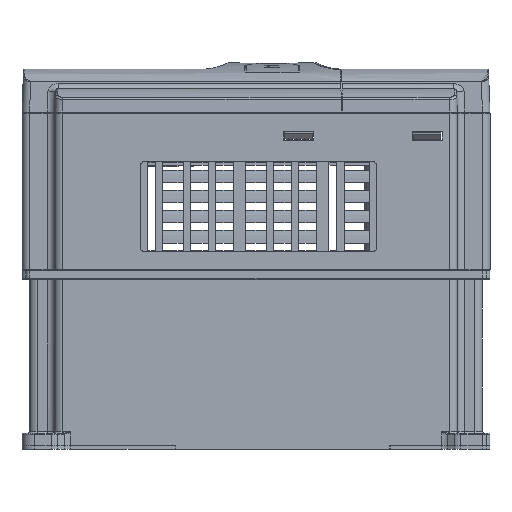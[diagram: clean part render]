
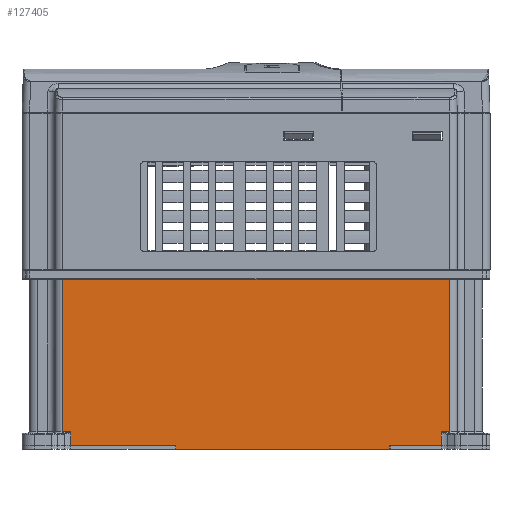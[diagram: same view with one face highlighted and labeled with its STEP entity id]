
A CAD part, left-side view. The second image highlights one B-rep face of the part: STEP entity #127405.
In plain terms, the highlighted planar face has unit normal (-1, 0, 0) as drawn and (1, 0, 0) by its records, which use the part's own axes.
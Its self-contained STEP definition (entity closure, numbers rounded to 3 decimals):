
#103944=DIRECTION('',(0.,0.,-1.));
#103945=VECTOR('',#103944,20.434);
#103946=CARTESIAN_POINT('',(60.,50.,75.434));
#103947=LINE('',#103946,#103945);
#104566=DIRECTION('',(0.,0.,-1.));
#104567=VECTOR('',#104566,41.794);
#104568=CARTESIAN_POINT('',(60.,50.,-30.));
#104569=LINE('',#104568,#104567);
#109543=DIRECTION('',(0.,-1.,0.));
#109544=VECTOR('',#109543,5.5);
#109545=CARTESIAN_POINT('',(60.,50.,75.434));
#109546=LINE('',#109545,#109544);
#109561=DIRECTION('',(0.,1.,0.));
#109562=VECTOR('',#109561,1.5);
#109563=CARTESIAN_POINT('',(60.,50.,55.));
#109564=LINE('',#109563,#109562);
#109565=DIRECTION('',(0.,0.,1.));
#109566=VECTOR('',#109565,3.387);
#109567=CARTESIAN_POINT('',(60.,44.5,-75.181));
#109568=LINE('',#109567,#109566);
#109569=DIRECTION('',(0.,-1.,0.));
#109570=VECTOR('',#109569,60.5);
#109571=CARTESIAN_POINT('',(60.,44.5,-75.181));
#109572=LINE('',#109571,#109570);
#109573=DIRECTION('',(0.,0.,-1.));
#109574=VECTOR('',#109573,154.);
#109575=CARTESIAN_POINT('',(60.,-16.,78.819));
#109576=LINE('',#109575,#109574);
#109577=DIRECTION('',(0.,0.,1.));
#109578=VECTOR('',#109577,3.385);
#109579=CARTESIAN_POINT('',(60.,44.5,75.434));
#109580=LINE('',#109579,#109578);
#109613=DIRECTION('',(0.,1.,0.));
#109614=VECTOR('',#109613,1.5);
#109615=CARTESIAN_POINT('',(60.,50.,-30.));
#109616=LINE('',#109615,#109614);
#109625=DIRECTION('',(0.,0.,-1.));
#109626=VECTOR('',#109625,85.);
#109627=CARTESIAN_POINT('',(60.,51.5,55.));
#109628=LINE('',#109627,#109626);
#110642=DIRECTION('',(0.,-1.,0.));
#110643=VECTOR('',#110642,60.5);
#110644=CARTESIAN_POINT('',(60.,44.5,78.819));
#110645=LINE('',#110644,#110643);
#115620=DIRECTION('',(0.,1.,
0.));
#115621=VECTOR('',#115620,5.5);
#115622=CARTESIAN_POINT('',(60.,44.5,
-71.794));
#115623=LINE('',#115622,#115621);
#117981=CARTESIAN_POINT('',(60.,50.,75.434));
#117983=VERTEX_POINT('',#117981);
#118040=CARTESIAN_POINT('',(60.,-16.,78.819));
#118041=CARTESIAN_POINT('',(60.,-16.,-75.181));
#118042=VERTEX_POINT('',#118040);
#118043=VERTEX_POINT('',#118041);
#118142=CARTESIAN_POINT('',(60.,50.,-71.794));
#118143=VERTEX_POINT('',#118142);
#118351=CARTESIAN_POINT('',(60.,44.5,78.819));
#118352=VERTEX_POINT('',#118351);
#118353=CARTESIAN_POINT('',(60.,44.5,75.434));
#118354=VERTEX_POINT('',#118353);
#118441=CARTESIAN_POINT('',(60.,44.5,-75.181));
#118442=VERTEX_POINT('',#118441);
#118725=CARTESIAN_POINT('',(60.,44.5,
-71.794));
#118726=VERTEX_POINT('',#118725);
#118826=CARTESIAN_POINT('',(60.,51.5,55.));
#118827=CARTESIAN_POINT('',(60.,51.5,-30.));
#118828=VERTEX_POINT('',#118826);
#118829=VERTEX_POINT('',#118827);
#118838=CARTESIAN_POINT('',(60.,50.,55.));
#118839=VERTEX_POINT('',#118838);
#118840=CARTESIAN_POINT('',(60.,50.,-30.));
#118841=VERTEX_POINT('',#118840);
#127378=CARTESIAN_POINT('',(60.,0.,78.819));
#127379=DIRECTION('',(1.,0.,0.));
#127380=DIRECTION('',(0.,0.,-1.));
#127381=AXIS2_PLACEMENT_3D('',#127378,#127379,#127380);
#127382=PLANE('',#127381);
#127383=ORIENTED_EDGE('',*,*,#121297,.T.);
#127385=ORIENTED_EDGE('',*,*,#127384,.T.);
#127387=ORIENTED_EDGE('',*,*,#127386,.T.);
#127389=ORIENTED_EDGE('',*,*,#127388,.F.);
#127390=ORIENTED_EDGE('',*,*,#121621,.T.);
#127392=ORIENTED_EDGE('',*,*,#127391,.F.);
#127393=ORIENTED_EDGE('',*,*,#122145,.F.);
#127395=ORIENTED_EDGE('',*,*,#127394,.T.);
#127397=ORIENTED_EDGE('',*,*,#127396,.F.);
#127399=ORIENTED_EDGE('',*,*,#127398,.F.);
#127401=ORIENTED_EDGE('',*,*,#127400,.F.);
#127402=ORIENTED_EDGE('',*,*,#127368,.F.);
#127403=EDGE_LOOP('',(#127383,#127385,#127387,#127389,#127390,#127392,#127393,
#127395,#127397,#127399,#127401,#127402));
#127404=FACE_OUTER_BOUND('',#127403,.F.);
#121297=EDGE_CURVE('',#117983,#118839,#103947,.T.);
#121621=EDGE_CURVE('',#118841,#118143,#104569,.T.);
#122145=EDGE_CURVE('',#118442,#118726,#109568,.T.);
#127368=EDGE_CURVE('',#117983,#118354,#109546,.T.);
#127384=EDGE_CURVE('',#118839,#118828,#109564,.T.);
#127386=EDGE_CURVE('',#118828,#118829,#109628,.T.);
#127388=EDGE_CURVE('',#118841,#118829,#109616,.T.);
#127391=EDGE_CURVE('',#118726,#118143,#115623,.T.);
#127394=EDGE_CURVE('',#118442,#118043,#109572,.T.);
#127396=EDGE_CURVE('',#118042,#118043,#109576,.T.);
#127398=EDGE_CURVE('',#118352,#118042,#110645,.T.);
#127400=EDGE_CURVE('',#118354,#118352,#109580,.T.);
#127405=ADVANCED_FACE('',(#127404),#127382,.T.);
